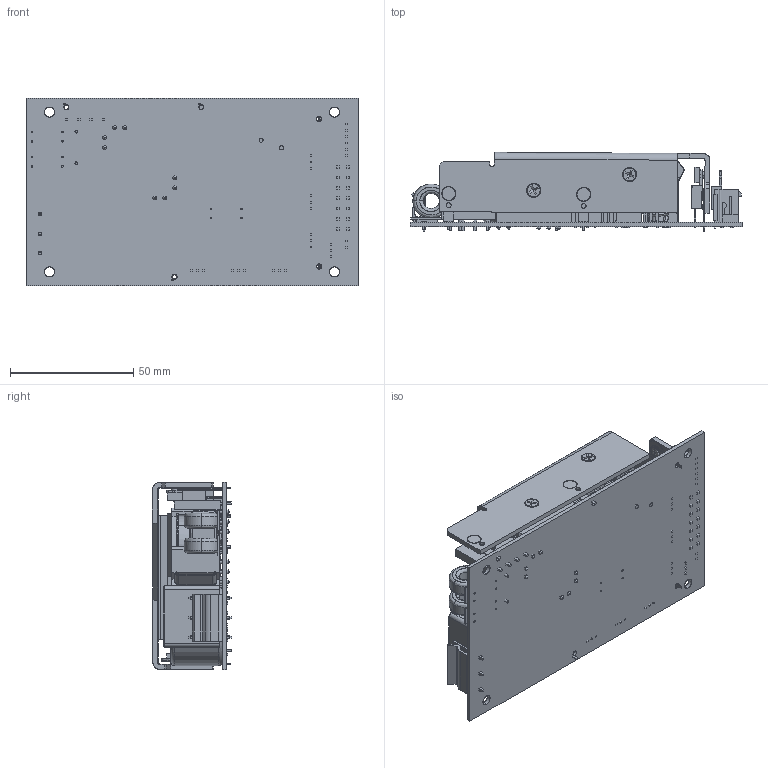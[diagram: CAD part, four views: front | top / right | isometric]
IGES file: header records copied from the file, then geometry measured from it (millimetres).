
Start section: SolidWorks IGES file using analytic representation for surfaces
Global section: file name: C:\Documents and Settings\scottshankle\WIP\!n2 power\XL280\XL280.IGS; native system: SolidWorks 2008; preprocessor: SolidWorks 2008; author: scottshankle; date: 100304.113117; units: inch
Bounding box: 134.62 x 32.04 x 76.2 mm (x, y, z)
Surface area: 86958.2 mm2 (no closed solid volume)
Topology: 0 solids, 0 shells, 2465 faces, 50240 edges, 62422 vertices
Faces by surface type: bspline 1904, revolution 561
